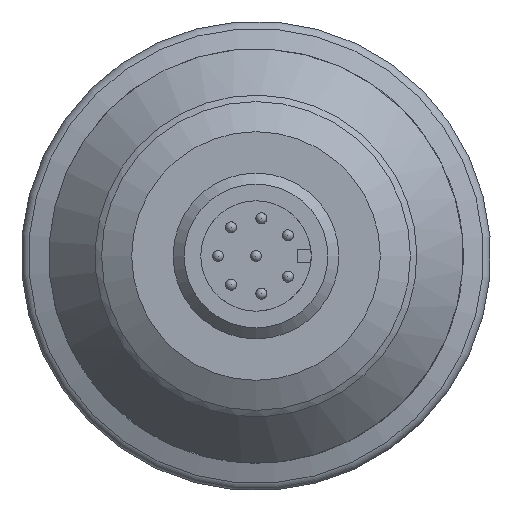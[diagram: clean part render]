
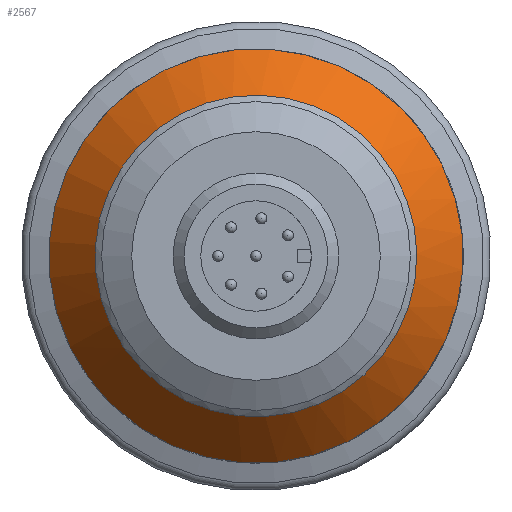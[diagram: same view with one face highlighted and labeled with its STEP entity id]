
A CAD part, front view. The second image highlights one B-rep face of the part: STEP entity #2567.
In plain terms, the highlighted conical face has half-angle 40 degrees and reference radius 15 mm.
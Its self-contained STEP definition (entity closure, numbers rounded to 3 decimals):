
#139=CONICAL_SURFACE('',#2775,15.,0.698);
#703=ORIENTED_EDGE('',*,*,#1444,.F.);
#704=ORIENTED_EDGE('',*,*,#1445,.T.);
#1444=EDGE_CURVE('',#1817,#1817,#1989,.T.);
#1445=EDGE_CURVE('',#1818,#1818,#1990,.T.);
#1817=VERTEX_POINT('',#3939);
#1818=VERTEX_POINT('',#3942);
#1989=CIRCLE('',#2774,15.);
#1990=CIRCLE('',#2776,11.644);
#2068=EDGE_LOOP('',(#703));
#2069=EDGE_LOOP('',(#704));
#2309=FACE_BOUND('',#2068,.T.);
#2310=FACE_BOUND('',#2069,.T.);
#2567=ADVANCED_FACE('',(#2309,#2310),#139,.T.);
#2774=AXIS2_PLACEMENT_3D('',#3938,#2995,#2996);
#2775=AXIS2_PLACEMENT_3D('',#3940,#2997,#2998);
#2776=AXIS2_PLACEMENT_3D('',#3941,#2999,#3000);
#2995=DIRECTION('',(0.,1.,0.));
#2996=DIRECTION('',(-0.998,0.,0.069));
#2997=DIRECTION('',(0.,1.,0.));
#2998=DIRECTION('',(-0.998,0.,0.069));
#2999=DIRECTION('',(0.,1.,0.));
#3000=DIRECTION('',(-0.998,0.,0.069));
#3938=CARTESIAN_POINT('',(0.,-33.3,0.));
#3939=CARTESIAN_POINT('',(-14.964,-33.3,1.032));
#3940=CARTESIAN_POINT('',(0.,-33.3,0.));
#3941=CARTESIAN_POINT('',(0.,-37.3,0.));
#3942=CARTESIAN_POINT('',(-11.616,-37.3,0.801));
